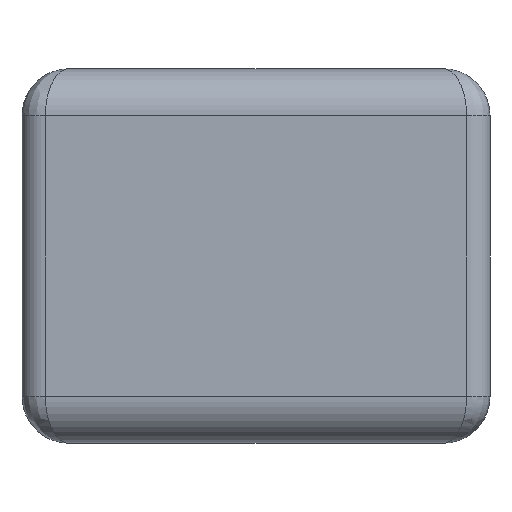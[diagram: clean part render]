
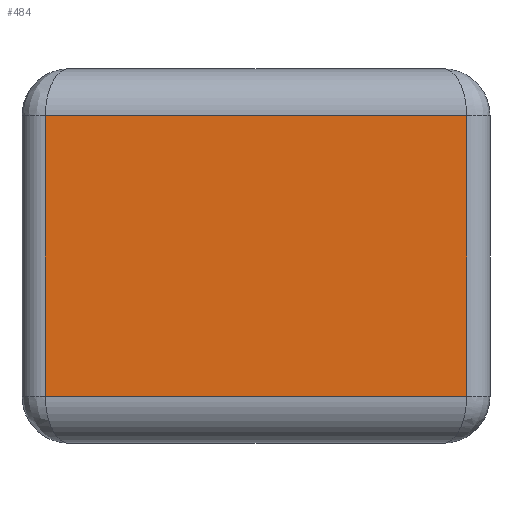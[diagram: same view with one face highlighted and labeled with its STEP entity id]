
A CAD part, front view. The second image highlights one B-rep face of the part: STEP entity #484.
In plain terms, the highlighted planar face has unit normal (0, -1, 0).
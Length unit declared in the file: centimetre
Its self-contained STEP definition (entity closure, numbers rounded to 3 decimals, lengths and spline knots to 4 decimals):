
#23 = EDGE_LOOP ( 'NONE', ( #220, #644, #391, #632 ) ) ;
#31 = VECTOR ( 'NONE', #603, 100. ) ;
#91 = DIRECTION ( 'NONE',  ( 0., 0., 1. ) ) ;
#94 = LINE ( 'NONE', #865, #203 ) ;
#203 = VECTOR ( 'NONE', #1029, 100. ) ;
#212 = DIRECTION ( 'NONE',  ( 0., 0., 1. ) ) ;
#220 = ORIENTED_EDGE ( 'NONE', *, *, #709, .T. ) ;
#221 = DIRECTION ( 'NONE',  ( 1., 0., 0. ) ) ;
#261 = LINE ( 'NONE', #772, #31 ) ;
#333 = VECTOR ( 'NONE', #91, 100. ) ;
#365 = EDGE_CURVE ( 'NONE', #812, #1063, #807, .T. ) ;
#382 = PLANE ( 'NONE',  #493 ) ;
#388 = FACE_OUTER_BOUND ( 'NONE', #23, .T. ) ;
#391 = ORIENTED_EDGE ( 'NONE', *, *, #428, .T. ) ;
#423 = CARTESIAN_POINT ( 'NONE',  ( 9.5, 0., 7. ) ) ;
#428 = EDGE_CURVE ( 'NONE', #1063, #434, #1060, .T. ) ;
#434 = VERTEX_POINT ( 'NONE', #423 ) ;
#484 = ADVANCED_FACE ( 'NONE', ( #388 ), #382, .F. ) ;
#493 = AXIS2_PLACEMENT_3D ( 'NONE', #822, #650, #212 ) ;
#603 = DIRECTION ( 'NONE',  ( 0., 0., -1. ) ) ;
#608 = CARTESIAN_POINT ( 'NONE',  ( 9.5, 0., 8. ) ) ;
#615 = VECTOR ( 'NONE', #221, 100. ) ;
#629 = VERTEX_POINT ( 'NONE', #1073 ) ;
#632 = ORIENTED_EDGE ( 'NONE', *, *, #768, .T. ) ;
#644 = ORIENTED_EDGE ( 'NONE', *, *, #365, .T. ) ;
#650 = DIRECTION ( 'NONE',  ( 0., 1., 0. ) ) ;
#709 = EDGE_CURVE ( 'NONE', #629, #812, #261, .T. ) ;
#768 = EDGE_CURVE ( 'NONE', #434, #629, #94, .T. ) ;
#772 = CARTESIAN_POINT ( 'NONE',  ( 0.5, 0., 8. ) ) ;
#807 = LINE ( 'NONE', #996, #615 ) ;
#812 = VERTEX_POINT ( 'NONE', #1037 ) ;
#822 = CARTESIAN_POINT ( 'NONE',  ( 0., 0., 8. ) ) ;
#833 = CARTESIAN_POINT ( 'NONE',  ( 9.5, 0., 1. ) ) ;
#865 = CARTESIAN_POINT ( 'NONE',  ( 0., 0., 7. ) ) ;
#996 = CARTESIAN_POINT ( 'NONE',  ( 9.5, 0., 1. ) ) ;
#1029 = DIRECTION ( 'NONE',  ( -1., 0., 0. ) ) ;
#1037 = CARTESIAN_POINT ( 'NONE',  ( 0.5, 0., 1. ) ) ;
#1060 = LINE ( 'NONE', #608, #333 ) ;
#1063 = VERTEX_POINT ( 'NONE', #833 ) ;
#1073 = CARTESIAN_POINT ( 'NONE',  ( 0.5, 0., 7. ) ) ;
